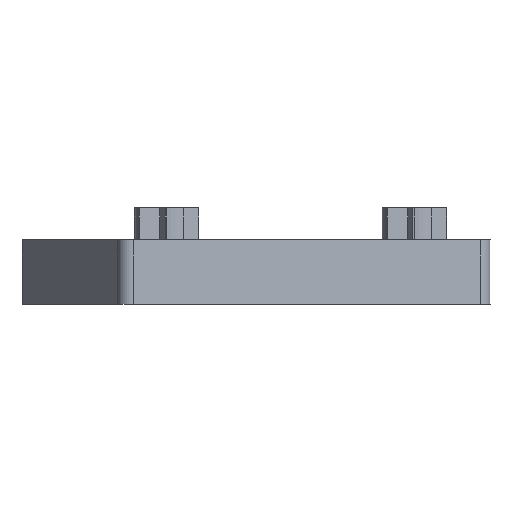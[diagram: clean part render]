
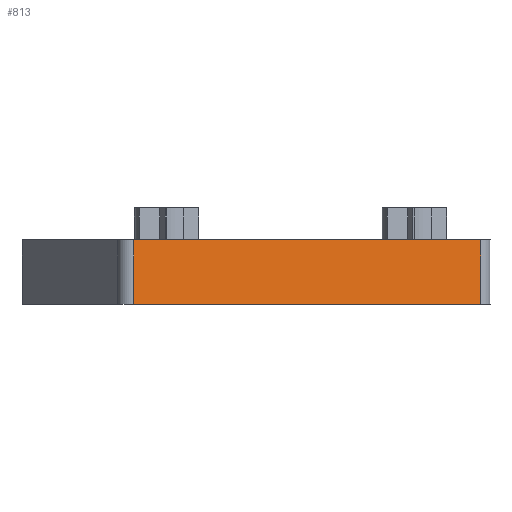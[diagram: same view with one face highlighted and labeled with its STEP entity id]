
A CAD part, left-side view. The second image highlights one B-rep face of the part: STEP entity #813.
In plain terms, the highlighted planar face has unit normal (-0.966, -0.259, 0).
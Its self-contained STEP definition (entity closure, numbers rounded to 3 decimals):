
#73 = CARTESIAN_POINT ( 'NONE',  ( -21.472, -4.718, 0. ) ) ;
#145 = FACE_OUTER_BOUND ( 'NONE', #1985, .T. ) ;
#306 = VECTOR ( 'NONE', #690, 1000. ) ;
#354 = VECTOR ( 'NONE', #965, 1000. ) ;
#404 = ORIENTED_EDGE ( 'NONE', *, *, #1617, .F. ) ;
#444 = DIRECTION ( 'NONE',  ( 0., 0., 1. ) ) ;
#563 = CARTESIAN_POINT ( 'NONE',  ( -28.978, 23.294, 0. ) ) ;
#586 = LINE ( 'NONE', #563, #2058 ) ;
#690 = DIRECTION ( 'NONE',  ( 0.259, -0.966, 0. ) ) ;
#786 = ORIENTED_EDGE ( 'NONE', *, *, #1176, .T. ) ;
#813 = ADVANCED_FACE ( 'NONE', ( #145 ), #1481, .T. ) ;
#921 = DIRECTION ( 'NONE',  ( -0.966, -0.259, 0. ) ) ;
#965 = DIRECTION ( 'NONE',  ( 0., 0., -1. ) ) ;
#1063 = VECTOR ( 'NONE', #444, 1000. ) ;
#1094 = CARTESIAN_POINT ( 'NONE',  ( -28.978, 23.294, 0. ) ) ;
#1128 = LINE ( 'NONE', #1516, #354 ) ;
#1176 = EDGE_CURVE ( 'NONE', #2536, #1922, #1128, .T. ) ;
#1481 = PLANE ( 'NONE',  #1652 ) ;
#1496 = LINE ( 'NONE', #2497, #306 ) ;
#1516 = CARTESIAN_POINT ( 'NONE',  ( -28.719, 22.328, 0. ) ) ;
#1527 = VERTEX_POINT ( 'NONE', #1620 ) ;
#1617 = EDGE_CURVE ( 'NONE', #2536, #2308, #1496, .T. ) ;
#1620 = CARTESIAN_POINT ( 'NONE',  ( -21.472, -4.718, 0. ) ) ;
#1652 = AXIS2_PLACEMENT_3D ( 'NONE', #1094, #921, #1731 ) ;
#1731 = DIRECTION ( 'NONE',  ( 0.259, -0.966, 0. ) ) ;
#1816 = EDGE_CURVE ( 'NONE', #1922, #1527, #586, .T. ) ;
#1880 = EDGE_CURVE ( 'NONE', #1527, #2308, #2435, .T. ) ;
#1922 = VERTEX_POINT ( 'NONE', #2230 ) ;
#1957 = ORIENTED_EDGE ( 'NONE', *, *, #1880, .T. ) ;
#1968 = CARTESIAN_POINT ( 'NONE',  ( -28.719, 22.328, 5. ) ) ;
#1985 = EDGE_LOOP ( 'NONE', ( #2348, #1957, #404, #786 ) ) ;
#2058 = VECTOR ( 'NONE', #2354, 1000. ) ;
#2230 = CARTESIAN_POINT ( 'NONE',  ( -28.719, 22.328, 0. ) ) ;
#2308 = VERTEX_POINT ( 'NONE', #2392 ) ;
#2348 = ORIENTED_EDGE ( 'NONE', *, *, #1816, .T. ) ;
#2354 = DIRECTION ( 'NONE',  ( 0.259, -0.966, 0. ) ) ;
#2392 = CARTESIAN_POINT ( 'NONE',  ( -21.472, -4.718, 5. ) ) ;
#2435 = LINE ( 'NONE', #73, #1063 ) ;
#2497 = CARTESIAN_POINT ( 'NONE',  ( -28.978, 23.294, 5. ) ) ;
#2536 = VERTEX_POINT ( 'NONE', #1968 ) ;
